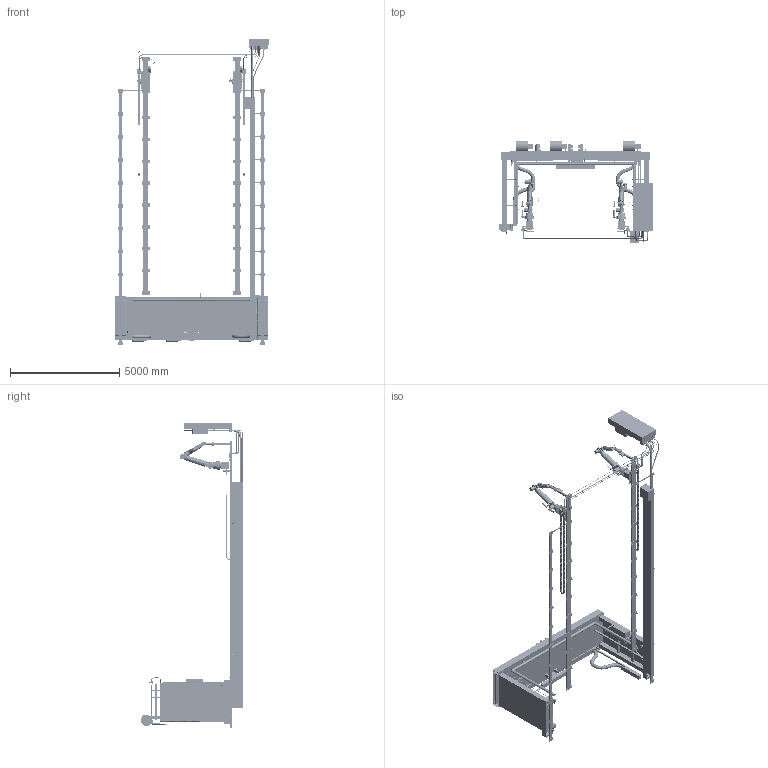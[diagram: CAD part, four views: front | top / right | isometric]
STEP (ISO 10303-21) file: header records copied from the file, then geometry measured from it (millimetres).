
FILE_DESCRIPTION(('Open CASCADE Model'),'2;1');
FILE_NAME('Open CASCADE Shape Model','2026-11-15T16:12:44',('Author'),( 'Open CASCADE'),'Open CASCADE STEP processor 7.9','Open CASCADE 7.9' ,'Unknown');
FILE_SCHEMA(('AUTOMOTIVE_DESIGN { 1 0 10303 214 1 1 1 1 }'));
Length unit declared in the file: millimetre
Products named in the file (352): wash_gantry; Bay; WSH-RAIL#1; WSH-RPL#1; WSH-ANC#1; WSH-RST#1; WSH-RBF#1; ISO4762-M10x60-8.8#1; WSH-DTB#1; WSH-DTP#1; WSH-DTT#1; RAIL25-2040#1; ISO4762-M6x20-A4-80#1; WSH-DRK#1; WSH-DTS#1; WSH-DCKP#1; WSH-DCKC#1; NOZ-jet#1; ISO4017-M10x25-A4-70#1; WSH-DCKS#1; WSH-LMR#1; WSH-LMG#1; WSH-CTR#1; WSH-CTC#1; WSH-CTB#1; WSH-CTS#1; WSH-SWL#1; WSH-SPB#1; WSH-DAC#1; WSH-SIS#1; WSH-SIH#1; WSH-SNP#1; WSH-SSE#1; WSH-SSN#1; WSH-SBV12#1; WSH-SS12#1; WSH-SD12#1; WSH-SBV22#1; WSH-SS22#1; WSH-SD22#1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
Assembly tree (2869 placements, depth 12):
  wash_gantry
    Bay
      WSH-RAIL#1  x2
      WSH-RPL#1  x24
      WSH-ANC#1  x96
      WSH-RST#1  x4
      WSH-RBF#1  x4
      ISO4762-M10x60-8.8#1  x8
      WSH-DTB#1  x2
      WSH-DTP#1  x24
      WSH-DTT#1  x2
      RAIL25-2040#1  x20
      ISO4762-M6x20-A4-80#1  x340
      WSH-DRK#1  x2
      WSH-DTS#1  x4
      WSH-DCKP#1  x2
      WSH-DCKC#1  x2
      NOZ-jet#1  x2
      ISO4017-M10x25-A4-70#1  x8
      WSH-DCKS#1  x2
      WSH-LMR#1  x2
      WSH-LMG#1  x2
      WSH-CTR#1
      WSH-CTC#1
      WSH-CTB#1  x2
      WSH-CTS#1  x10
      WSH-SWL#1
      WSH-SPB#1
      WSH-DAC#1
      WSH-SIS#1
      WSH-SIH#1
      WSH-SNP#1
      WSH-SSE#1
      WSH-SSN#1
      WSH-SBV12#1  x4
      WSH-SS12#1  x4
      WSH-SD12#1  x4
      WSH-SBV22#1
      WSH-SS22#1
      WSH-SD22#1
      WSH-SDC114#1  x2
      WSH-SDC34#1  x2
      WSH-SDC12#1
      WSH-SDC114I#1
      WSH-CTP#1
      WSH-CTQ#1
      WSH-SDM#1
      WSH-SDN#1
      WSH-SDP#1
      WSH-CTT#1
      WSH-DFB#1
      WSH-DFS#1
      WSH-MLN#1
      WSH-MLW#1
      WSH-MLA#1
      WSH-MLB#1
      WSH-MLR#1
      WSH-MLP#1
      WSH-DJB#1  x2
      WSH-DFE#1  x2
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Bounding box: 7033.95 x 4695.6 x 14052.2 mm (x, y, z)
Volume: 2337844042.8 mm3; surface area: 325205415.2 mm2
Topology: 4286 solids, 4307 shells, 55368 faces, 126071 edges, 82097 vertices
Faces by surface type: plane 39010, cylinder 12093, cone 1937, torus 1206, sphere 984, extrusion 72, bspline 66
Full cylindrical faces by diameter (mm): 2.52 x44, 3 x140, 3.4 x88, 4 x20, 4.2 x128, 4.5 x6, 5 x178, 5.04 x48, 5.1 x112, 5.5 x316, 6 x626, 6.1 x680, 6.5 x34, 6.6 x160, 6.8 x118, 7 x20, 8 x235, 8.2 x1, 8.4 x12, 8.5 x138, 8.68 x42, 8.96 x6, 9 x128, 9.2 x2, 9.388 x6, 9.5 x32, 9.92 x92, 10 x713, 10.5 x32, 11 x130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
Entity records: 647172 total; most frequent: CARTESIAN_POINT 245585, DIRECTION 75644, VECTOR 40197, LINE 40173, ORIENTED_EDGE 35936, PCURVE 35916, DEFINITIONAL_REPRESENTATION 35916, EDGE_CURVE 17958
